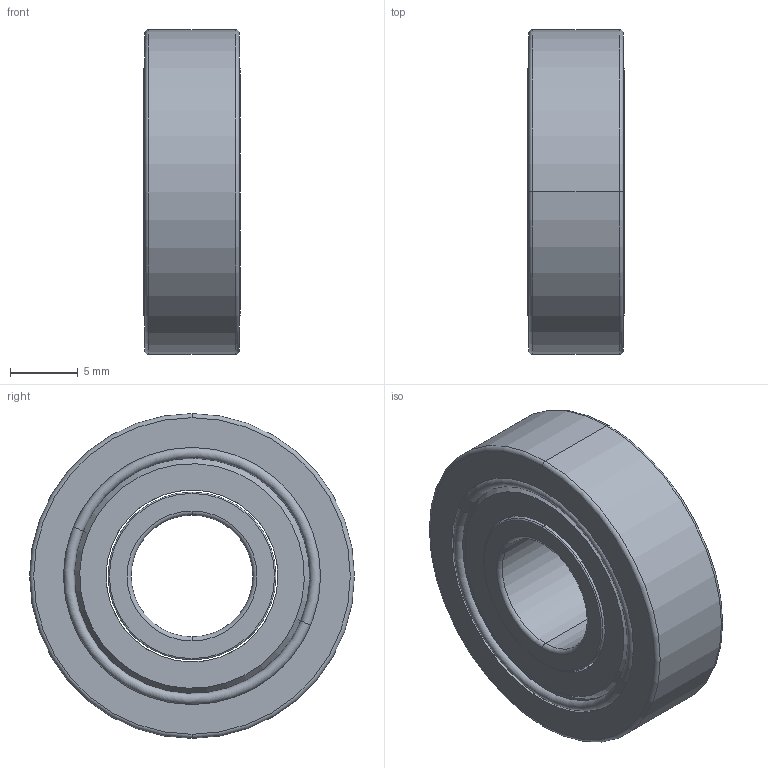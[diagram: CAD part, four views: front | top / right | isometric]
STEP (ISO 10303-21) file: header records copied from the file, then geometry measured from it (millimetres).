
FILE_DESCRIPTION((''),'2;1');
FILE_NAME('609ZZ-EA031','2025-12-19T16:29:27',('qinghui.yi'),(''),'CREO PARAMETRIC BY PTC INC, 2019164','CREO PARAMETRIC BY PTC INC, 2019164','');
FILE_SCHEMA(('CONFIG_CONTROL_DESIGN','SHAPE_APPEARANCE_LAYERS_GROUPS'));
Length unit declared in the file: millimetre
Products named in the file (1): 609ZZ-EA031
Bounding box: 7.1 x 24 x 24 mm (x, y, z)
Volume: 1707.5 mm3; surface area: 2935.4 mm2
Topology: 2 solids, 2 shells, 92 faces, 186 edges, 112 vertices
Faces by surface type: cylinder 36, torus 26, plane 18, cone 12
Entity records: 2687 total; most frequent: DIRECTION 508, CARTESIAN_POINT 390, ORIENTED_EDGE 372, AXIS2_PLACEMENT_3D 230, COLOUR_RGB 196, EDGE_CURVE 186, CIRCLE 138, VERTEX_POINT 112
